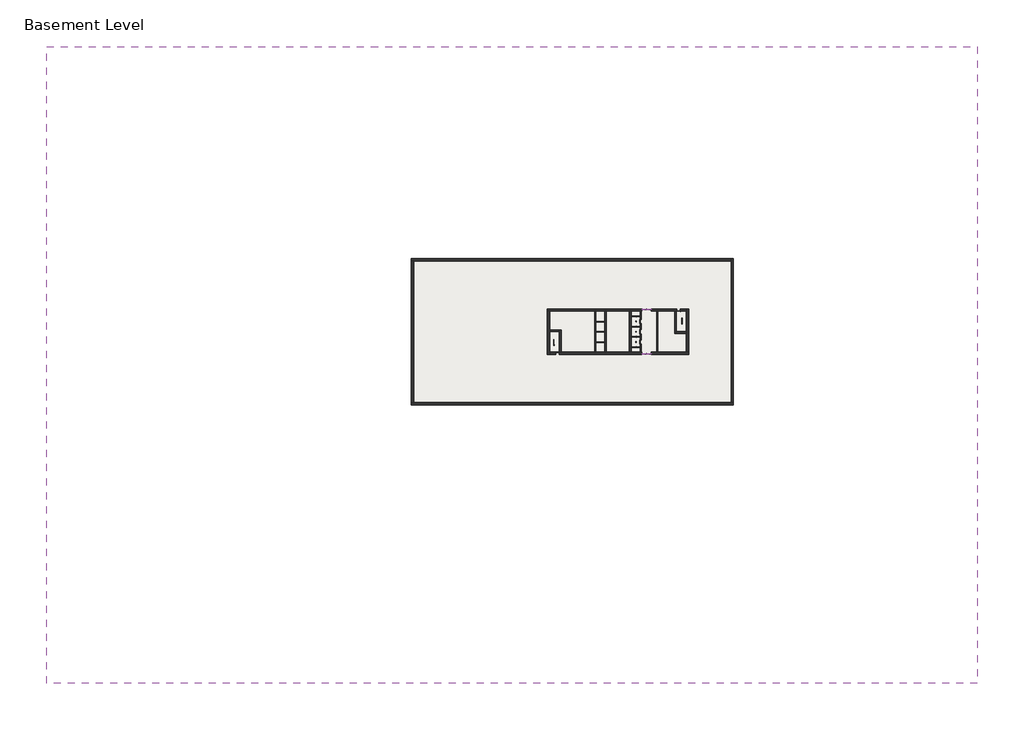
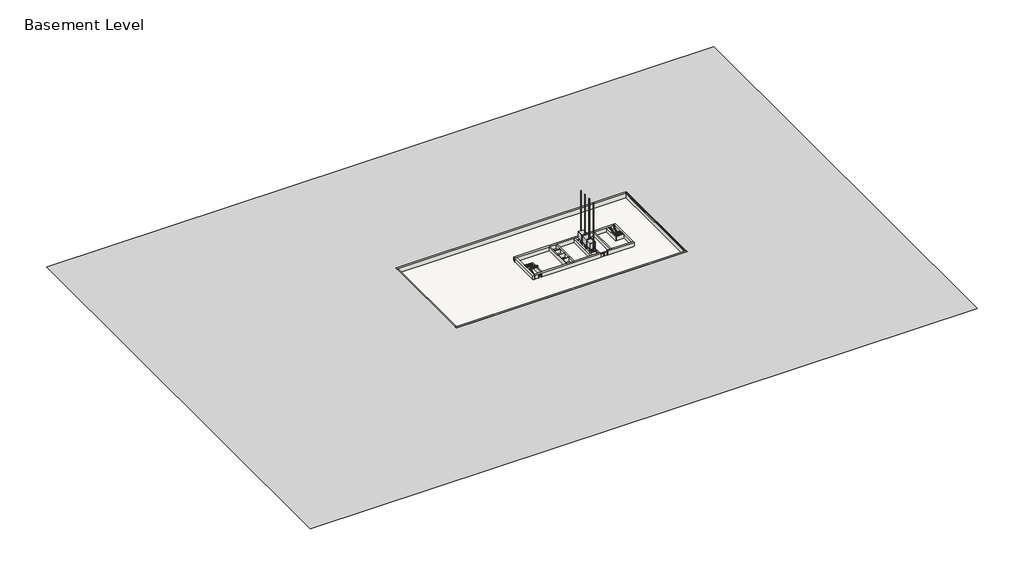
# One storey, incomplete: 24 members, 24 walls, 7 proxies, 6 plates, 4 doors, 4 railings, 3 slabs.
"""IFC4 building model written with IfcOpenShell, lengths in millimetres."""

from ifc_helpers import new_model, si_unit, frame, origin, place, context, project, spatial, polyline, outline, extrude, faceted_brep, triangles, transform, mapped, element, save
from components import proxy_3500_lbs_85ff0118, proxy_7fed659c, curtain_wall_sgl_glass_curtain_wall_sgl_glass_8fcb11fa, curtain_wall_sgl_glass_curtain_wall_sgl_glass_453d5037, door_c3c8cf1c, member_75074519, member_0585f7b2, member_9597caa3, member_b2bde9e6, member_8c690d98, member_3fe7ce38, system_panel_glazed_2148303e, system_panel_glazed_f840508f, system_panel_glazed_a7e6577e, system_panel_glazed_8ef02081, handrail_rectangular_c728cfe4, handrail_rectangular_09896a94, handrail_rectangular_35e503dc, handrail_rectangular_f2ca4272

model = new_model("IFC4")

# Units and contexts
model_context = context("Model", 3, world=origin())
ifc_project = project(units=[si_unit("LENGTHUNIT", "METRE", prefix="MILLI")], contexts=[model_context])

# Site, building, storey
site = spatial("IfcSite", under=ifc_project)
building = spatial("IfcBuilding", under=site)
storey = spatial("IfcBuildingStorey", under=building, Name="Basement Level", Elevation=-3048.0)

# Proxies
placement = place(None, origin())
element("IfcBuildingElementProxy", 1, Name="Building Element Proxy", at=placement, inside=storey, context=model_context, shape_type="Tessellation", body=[
    triangles([(78582.8406006, -100588.3346191, -152.4), (78582.8406006, 65222.8653809, -152.4), (-163596.3026367, 65222.8653809, -152.4), (-163596.3026367, -100588.3346191, -152.4), (-68723.8702881, -28082.2114746, -152.4), (-68723.8702881, 10017.7896881, -152.4), (-2048.1300716, 10017.7896881, -152.4), (15096.1285492, 10017.7896881, -152.4), (15096.1285492, -28082.2114746, -152.4), (-57695.9108643, -28082.2114746, -152.4)], [[4, 5, 3], [5, 4, 10], [5, 6, 3], [3, 6, 2], [4, 1, 10], [9, 1, 2], [1, 9, 10], [7, 8, 2], [2, 8, 9], [7, 2, 6]], closed=False),
])
proxy_3500_lbs_shape = proxy_3500_lbs_85ff0118(model_context)
element("IfcBuildingElementProxy", 2, Name="Elevator-Hydraulic[1] : 3500 lbs", ObjectType="Elevator-Hydraulic[1] : 3500 lbs", at=placement, inside=storey, context=model_context, shape_type="MappedRepresentation", body=[
    mapped(proxy_3500_lbs_shape, transform((-10221.2209663, -11691.7633527, -3048.0), x_axis=(0.0, -1.0, 0.0), y_axis=(1.0, 0.0, 0.0), z_axis=(0.0, 0.0, 1.0))),
])
element("IfcBuildingElementProxy", 3, Name="Elevator-Hydraulic[1] : 3500 lbs", ObjectType="Elevator-Hydraulic[1] : 3500 lbs", at=placement, inside=storey, context=model_context, shape_type="MappedRepresentation", body=[
    mapped(proxy_3500_lbs_shape, transform((-10221.2209663, -9024.7633527, -3048.0), x_axis=(0.0, -1.0, 0.0), y_axis=(1.0, 0.0, 0.0), z_axis=(0.0, 0.0, 1.0))),
])
element("IfcBuildingElementProxy", 4, Name="Elevator-Hydraulic[1] : 3500 lbs", ObjectType="Elevator-Hydraulic[1] : 3500 lbs", at=placement, inside=storey, context=model_context, shape_type="MappedRepresentation", body=[
    mapped(proxy_3500_lbs_shape, transform((-10221.2209663, -6357.7633527, -3048.0), x_axis=(0.0, -1.0, 0.0), y_axis=(1.0, 0.0, 0.0), z_axis=(0.0, 0.0, 1.0))),
])
proxy_shape = proxy_7fed659c(model_context)
element("IfcBuildingElementProxy", 5, Name="Elevator%20Door-Center[1] : 42\" x 84\"", ObjectType="Elevator%20Door-Center[1] : 42\" x 84\"", at=placement, inside=storey, context=model_context, shape_type="MappedRepresentation", body=[
    mapped(proxy_shape, transform((-9030.2427926, -6266.0747049, -3048.0), x_axis=(0.0, 1.0, 0.0), y_axis=(-1.0, 0.0, 0.0), z_axis=(0.0, 0.0, 1.0))),
])
element("IfcBuildingElementProxy", 6, Name="Elevator%20Door-Center[1] : 42\" x 84\"", ObjectType="Elevator%20Door-Center[1] : 42\" x 84\"", at=placement, inside=storey, context=model_context, shape_type="MappedRepresentation", body=[
    mapped(proxy_shape, transform((-9030.2427926, -8933.0747049, -3048.0), x_axis=(0.0, 1.0, 0.0), y_axis=(-1.0, 0.0, 0.0), z_axis=(0.0, 0.0, 1.0))),
])
element("IfcBuildingElementProxy", 7, Name="Elevator%20Door-Center[1] : 42\" x 84\"", ObjectType="Elevator%20Door-Center[1] : 42\" x 84\"", at=placement, inside=storey, context=model_context, shape_type="MappedRepresentation", body=[
    mapped(proxy_shape, transform((-9030.2427926, -11600.0747049, -3048.0), x_axis=(0.0, 1.0, 0.0), y_axis=(-1.0, 0.0, 0.0), z_axis=(0.0, 0.0, 1.0))),
])

# Doors
curtain_wall_sgl_glass_curtain_wall_sgl_glass_shape = curtain_wall_sgl_glass_curtain_wall_sgl_glass_8fcb11fa(model_context)
element("IfcDoor", 8, ObjectType="Curtain Wall Sgl Glass : Curtain Wall Sgl Glass", at=placement, inside=storey, context=model_context, shape_type="MappedRepresentation", body=[
    mapped(curtain_wall_sgl_glass_curtain_wall_sgl_glass_shape, transform((-8089.0820783, -3241.0103492, -3009.9), x_axis=(-1.0, 0.0, 0.0), y_axis=(0.0, -1.0, 0.0), z_axis=(0.0, 0.0, 1.0))),
])
curtain_wall_sgl_glass_curtain_wall_sgl_glass_2_shape = curtain_wall_sgl_glass_curtain_wall_sgl_glass_453d5037(model_context)
element("IfcDoor", 9, ObjectType="Curtain Wall Sgl Glass : Curtain Wall Sgl Glass", at=placement, inside=storey, context=model_context, shape_type="MappedRepresentation", body=[
    mapped(curtain_wall_sgl_glass_curtain_wall_sgl_glass_2_shape, transform((-8089.0820783, -14823.4103492, -3009.9), x_axis=(-1.0, 0.0, 0.0), y_axis=(0.0, -1.0, 0.0), z_axis=(0.0, 0.0, 1.0))),
])
door_shape = door_c3c8cf1c(model_context)
element("IfcDoor", 10, ObjectType="Single-Flush : 36\" x 84\"", at=placement, inside=storey, context=model_context, shape_type="MappedRepresentation", body=[
    mapped(door_shape, transform((-30700.0713641, -14671.0103492, -3048.0), x_axis=(1.0, 0.0, 0.0), y_axis=(0.0, 1.0, 0.0), z_axis=(0.0, 0.0, 1.0))),
])
element("IfcDoor", 11, ObjectType="Single-Flush : 36\" x 84\"", at=placement, inside=storey, context=model_context, shape_type="MappedRepresentation", body=[
    mapped(door_shape, transform((817.7000645, -3393.4103492, -3048.0), x_axis=(-1.0, 0.0, 0.0), y_axis=(0.0, -1.0, 0.0), z_axis=(0.0, 0.0, 1.0))),
])

# Members
member_shape = member_75074519(model_context)
element("IfcMember", 12, ObjectType="Rectangular Mullion : 2.5\" x 5\" rectangular", at=placement, inside=storey, context=model_context, shape_type="MappedRepresentation", body=[
    mapped(member_shape, transform((-6276.1570783, -3241.0103492, -434.975), x_axis=(0.0, 0.0, 1.0), y_axis=(0.0, -1.0, 0.0), z_axis=(1.0, 0.0, 0.0))),
])
element("IfcMember", 13, ObjectType="Rectangular Mullion : 2.5\" x 5\" rectangular", at=placement, inside=storey, context=model_context, shape_type="MappedRepresentation", body=[
    mapped(member_shape, transform((-7495.3570783, -3241.0103492, -434.975), x_axis=(0.0, 0.0, 1.0), y_axis=(0.0, -1.0, 0.0), z_axis=(1.0, 0.0, 0.0))),
])
element("IfcMember", 14, ObjectType="Rectangular Mullion : 2.5\" x 5\" rectangular", at=placement, inside=storey, context=model_context, shape_type="MappedRepresentation", body=[
    mapped(member_shape, transform((-8714.5570783, -3241.0103492, -3073.4), x_axis=(0.0, 0.0, -1.0), y_axis=(0.0, -1.0, 0.0), z_axis=(-1.0, 0.0, 0.0))),
])
element("IfcMember", 15, ObjectType="Rectangular Mullion : 2.5\" x 5\" rectangular", at=placement, inside=storey, context=model_context, shape_type="MappedRepresentation", body=[
    mapped(member_shape, transform((-7495.3570783, -3241.0103492, -3073.4), x_axis=(0.0, 0.0, -1.0), y_axis=(0.0, -1.0, 0.0), z_axis=(-1.0, 0.0, 0.0))),
])
member_2_shape = member_0585f7b2(model_context)
element("IfcMember", 16, ObjectType="Rectangular Mullion : 2.5\" x 5\" rectangular", at=placement, inside=storey, context=model_context, shape_type="MappedRepresentation", body=[
    mapped(member_2_shape, transform((-7495.3570783, -3241.0103492, -635.0), x_axis=(0.0, 0.0, 1.0), y_axis=(0.0, -1.0, 0.0), z_axis=(1.0, 0.0, 0.0))),
])
element("IfcMember", 17, ObjectType="Rectangular Mullion : 2.5\" x 5\" rectangular", at=placement, inside=storey, context=model_context, shape_type="MappedRepresentation", body=[
    mapped(member_2_shape, transform((-6339.6570783, -3241.0103492, -635.0), x_axis=(0.0, 0.0, 1.0), y_axis=(0.0, -1.0, 0.0), z_axis=(1.0, 0.0, 0.0))),
])
member_3_shape = member_9597caa3(model_context)
element("IfcMember", 18, ObjectType="Rectangular Mullion : 2.5\" x 5\" rectangular", at=placement, inside=storey, context=model_context, shape_type="MappedRepresentation", body=[
    mapped(member_3_shape, transform((-7495.3570783, -3241.0103492, -3009.9), x_axis=(1.0, 0.0, 0.0), y_axis=(0.0, -1.0, 0.0), z_axis=(0.0, 0.0, -1.0))),
])
member_4_shape = member_b2bde9e6(model_context)
element("IfcMember", 19, ObjectType="Rectangular Mullion : 2.5\" x 5\" rectangular", at=placement, inside=storey, context=model_context, shape_type="MappedRepresentation", body=[
    mapped(member_4_shape, transform((-6276.1570783, -3241.0103492, -3009.9), x_axis=(1.0, 0.0, 0.0), y_axis=(0.0, -1.0, 0.0), z_axis=(0.0, 0.0, -1.0))),
])
element("IfcMember", 20, ObjectType="Rectangular Mullion : 2.5\" x 5\" rectangular", at=placement, inside=storey, context=model_context, shape_type="MappedRepresentation", body=[
    mapped(member_4_shape, transform((-8714.5570783, -3241.0103492, -635.0), x_axis=(-1.0, 0.0, 0.0), y_axis=(0.0, -1.0, 0.0), z_axis=(0.0, 0.0, 1.0))),
])
element("IfcMember", 21, ObjectType="Rectangular Mullion : 2.5\" x 5\" rectangular", at=placement, inside=storey, context=model_context, shape_type="MappedRepresentation", body=[
    mapped(member_shape, transform((-8714.5570783, -14823.4103492, -3073.4), x_axis=(0.0, 0.0, -1.0), y_axis=(0.0, -1.0, 0.0), z_axis=(-1.0, 0.0, 0.0))),
])
element("IfcMember", 22, ObjectType="Rectangular Mullion : 2.5\" x 5\" rectangular", at=placement, inside=storey, context=model_context, shape_type="MappedRepresentation", body=[
    mapped(member_shape, transform((-7495.3570783, -14823.4103492, -3073.4), x_axis=(0.0, 0.0, -1.0), y_axis=(0.0, -1.0, 0.0), z_axis=(-1.0, 0.0, 0.0))),
])
element("IfcMember", 23, ObjectType="Rectangular Mullion : 2.5\" x 5\" rectangular", at=placement, inside=storey, context=model_context, shape_type="MappedRepresentation", body=[
    mapped(member_2_shape, transform((-7495.3570783, -14823.4103492, -635.0), x_axis=(0.0, 0.0, 1.0), y_axis=(0.0, -1.0, 0.0), z_axis=(1.0, 0.0, 0.0))),
])
element("IfcMember", 24, ObjectType="Rectangular Mullion : 2.5\" x 5\" rectangular", at=placement, inside=storey, context=model_context, shape_type="MappedRepresentation", body=[
    mapped(member_2_shape, transform((-6339.6570783, -14823.4103492, -635.0), x_axis=(0.0, 0.0, 1.0), y_axis=(0.0, -1.0, 0.0), z_axis=(1.0, 0.0, 0.0))),
])
element("IfcMember", 25, ObjectType="Rectangular Mullion : 2.5\" x 5\" rectangular", at=placement, inside=storey, context=model_context, shape_type="MappedRepresentation", body=[
    mapped(member_3_shape, transform((-7495.3570783, -14823.4103492, -3009.9), x_axis=(1.0, 0.0, 0.0), y_axis=(0.0, -1.0, 0.0), z_axis=(0.0, 0.0, -1.0))),
])
element("IfcMember", 26, ObjectType="Rectangular Mullion : 2.5\" x 5\" rectangular", at=placement, inside=storey, context=model_context, shape_type="MappedRepresentation", body=[
    mapped(member_4_shape, transform((-6276.1570783, -14823.4103492, -3009.9), x_axis=(1.0, 0.0, 0.0), y_axis=(0.0, -1.0, 0.0), z_axis=(0.0, 0.0, -1.0))),
])
element("IfcMember", 27, ObjectType="Rectangular Mullion : 2.5\" x 5\" rectangular", at=placement, inside=storey, context=model_context, shape_type="MappedRepresentation", body=[
    mapped(member_4_shape, transform((-8714.5570783, -14823.4103492, -635.0), x_axis=(-1.0, 0.0, 0.0), y_axis=(0.0, -1.0, 0.0), z_axis=(0.0, 0.0, 1.0))),
])
member_5_shape = member_8c690d98(model_context)
element("IfcMember", 28, ObjectType="Rectangular Mullion : 2.5\" x 5\" rectangular", at=placement, inside=storey, context=model_context, shape_type="MappedRepresentation", body=[
    mapped(member_5_shape, transform((-6276.1570783, -3241.0103492, -635.0), x_axis=(1.0, 0.0, 0.0), y_axis=(0.0, -1.0, 0.0), z_axis=(0.0, 0.0, -1.0))),
])
element("IfcMember", 29, ObjectType="Rectangular Mullion : 2.5\" x 5\" rectangular", at=placement, inside=storey, context=model_context, shape_type="MappedRepresentation", body=[
    mapped(member_5_shape, transform((-8714.5570783, -3241.0103492, -498.475), x_axis=(-1.0, 0.0, 0.0), y_axis=(0.0, -1.0, 0.0), z_axis=(0.0, 0.0, 1.0))),
])
member_6_shape = member_3fe7ce38(model_context)
element("IfcMember", 30, ObjectType="Rectangular Mullion : 2.5\" x 5\" rectangular", at=placement, inside=storey, context=model_context, shape_type="MappedRepresentation", body=[
    mapped(member_6_shape, transform((-7495.3570783, -3241.0103492, -603.25), x_axis=(1.0, 0.0, 0.0), y_axis=(0.0, -1.0, 0.0), z_axis=(0.0, 0.0, -1.0))),
])
element("IfcMember", 31, ObjectType="Rectangular Mullion : 2.5\" x 5\" rectangular", at=placement, inside=storey, context=model_context, shape_type="MappedRepresentation", body=[
    mapped(member_5_shape, transform((-6276.1570783, -14823.4103492, -635.0), x_axis=(1.0, 0.0, 0.0), y_axis=(0.0, -1.0, 0.0), z_axis=(0.0, 0.0, -1.0))),
])
element("IfcMember", 32, ObjectType="Rectangular Mullion : 2.5\" x 5\" rectangular", at=placement, inside=storey, context=model_context, shape_type="MappedRepresentation", body=[
    mapped(member_5_shape, transform((-8714.5570783, -14823.4103492, -498.475), x_axis=(-1.0, 0.0, 0.0), y_axis=(0.0, -1.0, 0.0), z_axis=(0.0, 0.0, 1.0))),
])
element("IfcMember", 33, ObjectType="Rectangular Mullion : 2.5\" x 5\" rectangular", at=placement, inside=storey, context=model_context, shape_type="MappedRepresentation", body=[
    mapped(member_6_shape, transform((-7495.3570783, -14823.4103492, -603.25), x_axis=(1.0, 0.0, 0.0), y_axis=(0.0, -1.0, 0.0), z_axis=(0.0, 0.0, -1.0))),
])
element("IfcMember", 34, ObjectType="Rectangular Mullion : 2.5\" x 5\" rectangular", at=placement, inside=storey, context=model_context, shape_type="MappedRepresentation", body=[
    mapped(member_shape, transform((-6276.1570783, -14823.4103492, -434.975), x_axis=(0.0, 0.0, 1.0), y_axis=(0.0, -1.0, 0.0), z_axis=(1.0, 0.0, 0.0))),
])
element("IfcMember", 35, ObjectType="Rectangular Mullion : 2.5\" x 5\" rectangular", at=placement, inside=storey, context=model_context, shape_type="MappedRepresentation", body=[
    mapped(member_shape, transform((-7495.3570783, -14823.4103492, -434.975), x_axis=(0.0, 0.0, 1.0), y_axis=(0.0, -1.0, 0.0), z_axis=(1.0, 0.0, 0.0))),
])

# Plates
system_panel_glazed_shape = system_panel_glazed_2148303e(model_context)
element("IfcPlate", 36, ObjectType="System Panel : Glazed", at=placement, inside=storey, context=model_context, shape_type="MappedRepresentation", body=[
    mapped(system_panel_glazed_shape, transform((-6901.6320783, -3241.0103492, -3009.9), x_axis=(1.0, 0.0, 0.0), y_axis=(0.0, 1.0, 0.0), z_axis=(0.0, 0.0, 1.0))),
])
system_panel_glazed_2_shape = system_panel_glazed_f840508f(model_context)
element("IfcPlate", 37, ObjectType="System Panel : Glazed", at=placement, inside=storey, context=model_context, shape_type="MappedRepresentation", body=[
    mapped(system_panel_glazed_2_shape, transform((-6901.6320783, -14823.4103492, -3009.9), x_axis=(1.0, 0.0, 0.0), y_axis=(0.0, 1.0, 0.0), z_axis=(0.0, 0.0, 1.0))),
])
system_panel_glazed_3_shape = system_panel_glazed_a7e6577e(model_context)
element("IfcPlate", 38, ObjectType="System Panel : Glazed", at=placement, inside=storey, context=model_context, shape_type="MappedRepresentation", body=[
    mapped(system_panel_glazed_3_shape, transform((-8089.0820783, -3241.0103492, -603.25), x_axis=(1.0, 0.0, 0.0), y_axis=(0.0, 1.0, 0.0), z_axis=(0.0, 0.0, 1.0))),
])
element("IfcPlate", 39, ObjectType="System Panel : Glazed", at=placement, inside=storey, context=model_context, shape_type="MappedRepresentation", body=[
    mapped(system_panel_glazed_3_shape, transform((-6901.6320783, -3241.0103492, -603.25), x_axis=(1.0, 0.0, 0.0), y_axis=(0.0, 1.0, 0.0), z_axis=(0.0, 0.0, 1.0))),
])
system_panel_glazed_4_shape = system_panel_glazed_8ef02081(model_context)
element("IfcPlate", 40, ObjectType="System Panel : Glazed", at=placement, inside=storey, context=model_context, shape_type="MappedRepresentation", body=[
    mapped(system_panel_glazed_4_shape, transform((-8089.0820783, -14823.4103492, -603.25), x_axis=(1.0, 0.0, 0.0), y_axis=(0.0, 1.0, 0.0), z_axis=(0.0, 0.0, 1.0))),
])
element("IfcPlate", 41, ObjectType="System Panel : Glazed", at=placement, inside=storey, context=model_context, shape_type="MappedRepresentation", body=[
    mapped(system_panel_glazed_4_shape, transform((-6901.6320783, -14823.4103492, -603.25), x_axis=(1.0, 0.0, 0.0), y_axis=(0.0, 1.0, 0.0), z_axis=(0.0, 0.0, 1.0))),
])

# Railings
handrail_rectangular_shape = handrail_rectangular_c728cfe4(model_context)
element("IfcRailing", 42, ObjectType="Handrail - Rectangular", at=placement, inside=storey, context=model_context, shape_type="MappedRepresentation", body=[
    mapped(handrail_rectangular_shape, transform((0.0, 0.0, 0.0), x_axis=(1.0, 0.0, 0.0), y_axis=(0.0, 1.0, 0.0), z_axis=(0.0, 0.0, 1.0))),
])
handrail_rectangular_2_shape = handrail_rectangular_09896a94(model_context)
element("IfcRailing", 43, ObjectType="Handrail - Rectangular", at=placement, inside=storey, context=model_context, shape_type="MappedRepresentation", body=[
    mapped(handrail_rectangular_2_shape, transform((0.0, 0.0, 0.0), x_axis=(1.0, 0.0, 0.0), y_axis=(0.0, 1.0, 0.0), z_axis=(0.0, 0.0, 1.0))),
])
handrail_rectangular_3_shape = handrail_rectangular_35e503dc(model_context)
element("IfcRailing", 44, ObjectType="Handrail - Rectangular", at=placement, inside=storey, context=model_context, shape_type="MappedRepresentation", body=[
    mapped(handrail_rectangular_3_shape, transform((0.0, 0.0, 0.0), x_axis=(1.0, 0.0, 0.0), y_axis=(0.0, 1.0, 0.0), z_axis=(0.0, 0.0, 1.0))),
])
handrail_rectangular_4_shape = handrail_rectangular_f2ca4272(model_context)
element("IfcRailing", 45, ObjectType="Handrail - Rectangular", at=placement, inside=storey, context=model_context, shape_type="MappedRepresentation", body=[
    mapped(handrail_rectangular_4_shape, transform((0.0, 0.0, 0.0), x_axis=(1.0, 0.0, 0.0), y_axis=(0.0, 1.0, 0.0), z_axis=(0.0, 0.0, 1.0))),
])

# Slabs
element("IfcSlab", 46, ObjectType="6\" Foundation Slab", at=placement, inside=storey, context=model_context, shape_type="SweptSolid", body=[
    extrude(outline(polyline([(-68114.2713641, -27472.6103492), (-68114.2713641, 9408.1896508), (14486.5286359, 9408.1896508), (14486.5286359, -27472.6103492), (-68114.2713641, -27472.6103492)])), frame((0.0, 0.0, -3200.4), z_axis=(0.0, 0.0, 1.0), x_axis=(1.0, 0.0, 0.0)), (0.0, 0.0, 1.0), 152.4),
])
element("IfcSlab", 47, ObjectType="Generic - 4\"", at=placement, inside=storey, context=model_context, shape_type="SweptSolid", body=[
    extrude(outline(polyline([(-68114.2713641, -27472.6103492), (-68114.2713641, 9408.1896508), (14486.5286359, 9408.1896508), (14486.5286359, -27472.6103492), (-68114.2713641, -27472.6103492)])), frame((0.0, 0.0, -3149.6), z_axis=(0.0, 0.0, 1.0), x_axis=(1.0, 0.0, 0.0)), (0.0, 0.0, 1.0), 101.6),
])
element("IfcSlab", 48, ObjectType="Pad 1", at=placement, inside=storey, context=model_context, shape_type="SweptSolid", body=[
    extrude(outline(polyline([(-68723.8713641, -28082.2103492), (-68723.8713641, 10017.7896508), (15096.1286359, 10017.7896508), (15096.1286359, -28082.2103492), (-68723.8713641, -28082.2103492)])), frame((0.0, 0.0, -2286.0), z_axis=(0.0, 0.0, 1.0), x_axis=(1.0, 0.0, 0.0)), (0.0, 0.0, 1.0), 304.8),
])

# Walls
element("IfcWall", 49, ObjectType="Core-shaft 10\" Concrete", at=placement, inside=storey, context=model_context, shape_type="SweptSolid", body=[
    extrude(outline(polyline([(-20725.1285069, -3698.2103492), (-20725.1285069, -14366.2103492), (-20979.1285069, -14366.2103492), (-20979.1285069, -3698.2103492), (-20725.1285069, -3698.2103492)])), frame((0.0, 0.0, -3048.0), z_axis=(0.0, 0.0, 1.0), x_axis=(1.0, 0.0, 0.0)), (0.0, 0.0, 1.0), 2613.025),
])
element("IfcWall", 50, ObjectType="Core-shaft 10\" Concrete", at=placement, inside=storey, context=model_context, shape_type="SweptSolid", body=[
    extrude(outline(polyline([(-3698.2103492, -3048.0), (-5825.4603492, -3048.0), (-5825.4603492, -889.0), (-6904.9603492, -889.0), (-6904.9603492, -3048.0), (-8492.4603492, -3048.0), (-8492.4603492, -889.0), (-9571.9603492, -889.0), (-9571.9603492, -3048.0), (-11159.4603492, -3048.0), (-11159.4603492, -889.0), (-12238.9603492, -889.0), (-12238.9603492, -3048.0), (-14366.2103492, -3048.0), (-14366.2103492, -434.975), (-3698.2103492, -434.975), (-3698.2103492, -3048.0)])), frame((-9157.2427926, 0.0, 0.0), z_axis=(1.0, 0.0, 0.0), x_axis=(0.0, 1.0, 0.0)), (0.0, 0.0, 1.0), 254.0),
])
element("IfcWall", 51, ObjectType="Core-shaft 10\" Concrete", at=placement, inside=storey, context=model_context, shape_type="SweptSolid", body=[
    extrude(outline(polyline([(-4636.0427926, -3698.2103492), (-4636.0427926, -14366.2103492), (-4890.0427926, -14366.2103492), (-4890.0427926, -3698.2103492), (-4636.0427926, -3698.2103492)])), frame((0.0, 0.0, -3048.0), z_axis=(0.0, 0.0, 1.0), x_axis=(1.0, 0.0, 0.0)), (0.0, 0.0, 1.0), 2613.025),
])
element("IfcWall", 52, ObjectType="Core-shaft 18\" Concrete", at=placement, inside=storey, context=model_context, shape_type="SweptSolid", body=[
    extrude(outline(polyline([(-18385.1284437, -14366.2103492), (-18385.1284437, -3698.2103492), (-17927.9284437, -3698.2103492), (-17927.9284437, -14366.2103492), (-18385.1284437, -14366.2103492)])), frame((0.0, 0.0, -3048.0), z_axis=(0.0, 0.0, 1.0), x_axis=(1.0, 0.0, 0.0)), (0.0, 0.0, 1.0), 2613.025),
])
element("IfcWall", 53, ObjectType="Core-shaft 18\" Concrete", at=placement, inside=storey, context=model_context, shape_type="Brep", body=[
    faceted_brep([(-29709.4713641, -14366.2103492, -3048.0), (-29709.4713641, -8575.0103492, -3048.0), (-29709.4713641, -8575.0103492, -434.975), (-29709.4713641, -14366.2103492, -434.975), (-30166.6713641, -14366.2103492, -3048.0), (-30166.6713641, -14366.2103492, -434.975), (-30166.6713641, -9032.2103492, -434.975), (-30166.6713641, -8575.0103492, -434.975), (-30166.6713641, -8575.0103492, -3048.0), (-30166.6713641, -9032.2103492, -3048.0)], [[[0, 1, 2, 3]], [[4, 5, 6, 7, 8, 9]], [[1, 0, 4, 9, 8]], [[0, 3, 5, 4]], [[2, 1, 8, 7]], [[3, 2, 7, 6, 5]]]),
])
element("IfcWall", 54, ObjectType="Core-shaft 18\" Concrete", at=placement, inside=storey, context=model_context, shape_type="SweptSolid", body=[
    extrude(outline(polyline([(-32750.2142212, -8575.0103492), (-30166.6713641, -8575.0103492), (-30166.6713641, -9032.2103492), (-32750.2142212, -9032.2103492), (-32750.2142212, -8575.0103492)])), frame((0.0, 0.0, -3048.0), z_axis=(0.0, 0.0, 1.0), x_axis=(1.0, 0.0, 0.0)), (0.0, 0.0, 1.0), 2613.025),
])
element("IfcWall", 55, ObjectType="Core-shaft 18\" Concrete", at=placement, inside=storey, context=model_context, shape_type="SweptSolid", body=[
    extrude(outline(polyline([(-11954.4428559, -14366.2103492), (-11954.4428559, -3698.2103492), (-11497.2428559, -3698.2103492), (-11497.2428559, -14366.2103492), (-11954.4428559, -14366.2103492)])), frame((0.0, 0.0, -3048.0), z_axis=(0.0, 0.0, 1.0), x_axis=(1.0, 0.0, 0.0)), (0.0, 0.0, 1.0), 2613.025),
])
element("IfcWall", 56, ObjectType="Core-shaft 18\" Concrete", at=placement, inside=storey, context=model_context, shape_type="Brep", body=[
    faceted_brep([(-172.8999355, -3698.2103492, -3048.0), (-172.8999355, -9489.4103492, -3048.0), (-172.8999355, -9489.4103492, -434.975), (-172.8999355, -3698.2103492, -434.975), (284.3000645, -3698.2103492, -3048.0), (284.3000645, -3698.2103492, -434.975), (284.3000645, -9032.2103492, -434.975), (284.3000645, -9489.4103492, -434.975), (284.3000645, -9489.4103492, -3048.0), (284.3000645, -9032.2103492, -3048.0)], [[[0, 1, 2, 3]], [[4, 5, 6, 7, 8, 9]], [[1, 0, 4, 9, 8]], [[0, 3, 5, 4]], [[2, 1, 8, 7]], [[3, 2, 7, 6, 5]]]),
])
element("IfcWall", 57, ObjectType="Core-shaft 18\" Concrete", at=placement, inside=storey, context=model_context, shape_type="SweptSolid", body=[
    extrude(outline(polyline([(2867.8429217, -9489.4103492), (284.3000645, -9489.4103492), (284.3000645, -9032.2103492), (2867.8429217, -9032.2103492), (2867.8429217, -9489.4103492)])), frame((0.0, 0.0, -3048.0), z_axis=(0.0, 0.0, 1.0), x_axis=(1.0, 0.0, 0.0)), (0.0, 0.0, 1.0), 2613.025),
])
element("IfcWall", 58, ObjectType="Core-shaft 24\" Concrete", at=placement, inside=storey, context=model_context, shape_type="Brep", body=[
    faceted_brep([(15096.1286359, -27472.6103492, -3048.0), (14486.5286359, -27472.6103492, -3048.0), (-68114.2713641, -27472.6103492, -3048.0), (-68723.8713641, -27472.6103492, -3048.0), (-68723.8713641, -27472.6103492, -434.975), (-68723.8713641, -27472.6103492, -127.0), (15096.1286359, -27472.6103492, -127.0), (15096.1286359, -27472.6103492, -434.975), (15096.1286359, -28082.2103492, -3048.0), (15096.1286359, -28082.2103492, -127.0), (-68723.8713641, -28082.2103492, -127.0), (-68723.8713641, -28082.2103492, -3048.0)], [[[0, 1, 2, 3, 4, 5, 6, 7]], [[8, 9, 10, 11]], [[3, 2, 1, 0, 8, 11]], [[6, 5, 10, 9]], [[0, 7, 6, 9, 8]], [[5, 4, 3, 11, 10]]]),
])
element("IfcWall", 59, ObjectType="Core-shaft 24\" Concrete", at=placement, inside=storey, context=model_context, shape_type="Brep", body=[
    faceted_brep([(14486.5286359, 10017.7896508, -3048.0), (14486.5286359, 9408.1896508, -3048.0), (14486.5286359, -27472.6103492, -3048.0), (14486.5286359, -27472.6103492, -434.975), (14486.5286359, 10017.7896508, -434.975), (15096.1286359, 10017.7896508, -3048.0), (15096.1286359, 10017.7896508, -434.975), (15096.1286359, 9953.8127769, -434.975), (15096.1286359, -27472.6103492, -434.975), (15096.1286359, -27472.6103492, -3048.0), (14575.0788114, 10017.7896508, -434.975), (14830.5804088, 10017.7896508, -434.975), (15043.3054088, 10017.7896508, -434.975), (15043.3054088, -27472.6103492, -434.975), (14830.5804088, -27472.6103492, -434.975), (15043.3054088, 9960.2986536, -434.975), (14830.5804088, 9986.4179993, -434.975), (14830.5804088, -15034.4255886, -434.975)], [[[0, 1, 2, 3, 4]], [[5, 6, 7, 8, 9]], [[2, 1, 0, 5, 9]], [[0, 4, 10, 11, 12, 6, 5]], [[3, 2, 9, 8, 13, 14]], [[13, 8, 7, 15]], [[7, 6, 12, 15]], [[14, 13, 15, 16, 17]], [[11, 10, 16]], [[12, 11, 16, 15]], [[4, 3, 14, 17, 16, 10]]]),
])
element("IfcWall", 60, ObjectType="Core-shaft 24\" Concrete", at=placement, inside=storey, context=model_context, shape_type="Brep", body=[
    faceted_brep([(-68723.8713641, 9408.1896508, -3048.0), (-68114.2713641, 9408.1896508, -3048.0), (14486.5286359, 9408.1896508, -3048.0), (14486.5286359, 9408.1896508, -127.0), (-68723.8713641, 9408.1896508, -127.0), (-68723.8713641, 9408.1896508, -434.975), (-68723.8713641, 10017.7896508, -3048.0), (-68723.8713641, 10017.7896508, -127.0), (14486.5286359, 10017.7896508, -127.0), (14486.5286359, 10017.7896508, -434.975), (14486.5286359, 10017.7896508, -3048.0)], [[[0, 1, 2, 3, 4, 5]], [[6, 7, 8, 9, 10]], [[2, 1, 0, 6, 10]], [[4, 3, 8, 7]], [[0, 5, 4, 7, 6]], [[3, 2, 10, 9, 8]]]),
])
element("IfcWall", 61, ObjectType="Core-shaft 24\" Concrete", at=placement, inside=storey, context=model_context, shape_type="SweptSolid", body=[
    extrude(outline(polyline([(-3048.0, -68114.2713641), (-434.975, -68114.2713641), (-434.975, -68660.7599961), (-434.975, -68723.8713641), (-3048.0, -68723.8713641), (-3048.0, -68114.2713641)])), frame((0.0, -27472.6103492, 0.0), z_axis=(0.0, 1.0, 0.0), x_axis=(0.0, 0.0, 1.0)), (0.0, 0.0, 1.0), 36880.8),
])
element("IfcWall", 62, ObjectType="Core-shaft 24\" Concrete", at=placement, inside=storey, context=model_context, shape_type="Brep", body=[
    faceted_brep([(-8714.5570783, -14366.2103492, -3048.0), (-8903.2427926, -14366.2103492, -3048.0), (-9157.2427926, -14366.2103492, -3048.0), (-11497.2428559, -14366.2103492, -3048.0), (-11954.4428559, -14366.2103492, -3048.0), (-17927.9284437, -14366.2103492, -3048.0), (-18385.1284437, -14366.2103492, -3048.0), (-20725.1285069, -14366.2103492, -3048.0), (-20979.1285069, -14366.2103492, -3048.0), (-29709.4713641, -14366.2103492, -3048.0), (-30166.6713641, -14366.2103492, -3048.0), (-30242.8713641, -14366.2103492, -3048.0), (-30242.8713641, -14366.2103492, -914.4), (-31157.2713641, -14366.2103492, -914.4), (-31157.2713641, -14366.2103492, -3048.0), (-32750.2142212, -14366.2103492, -3048.0), (-32750.2142212, -14366.2103492, -434.975), (-30166.6713641, -14366.2103492, -434.975), (-29709.4713641, -14366.2103492, -434.975), (-20979.1285069, -14366.2103492, -434.975), (-20725.1285069, -14366.2103492, -434.975), (-18385.1284437, -14366.2103492, -434.975), (-17927.9284437, -14366.2103492, -434.975), (-11954.4428559, -14366.2103492, -434.975), (-11497.2428559, -14366.2103492, -434.975), (-9157.2427926, -14366.2103492, -434.975), (-8903.2427926, -14366.2103492, -434.975), (-8714.5570783, -14366.2103492, -434.975), (-30242.8713641, -14975.8103492, -914.4), (-30242.8713641, -14975.8103492, -3048.0), (-8714.5570783, -14975.8103492, -3048.0), (-8714.5570783, -14975.8103492, -434.975), (-32750.2142212, -14975.8103492, -434.975), (-32750.2142212, -14975.8103492, -3048.0), (-31157.2713641, -14975.8103492, -3048.0), (-31157.2713641, -14975.8103492, -914.4)], [[[0, 1, 2, 3, 4, 5, 6, 7, 8, 9, 10, 11, 12, 13, 14, 15, 16, 17, 18, 19, 20, 21, 22, 23, 24, 25, 26, 27]], [[28, 29, 30, 31, 32, 33, 34, 35]], [[34, 33, 15, 14]], [[30, 29, 11, 10, 9, 8, 7, 6, 5, 4, 3, 2, 1, 0]], [[12, 11, 29, 28]], [[13, 12, 28, 35]], [[14, 13, 35, 34]], [[0, 27, 31, 30]], [[16, 15, 33, 32]], [[16, 32, 31, 27, 26, 25, 24, 23, 22, 21, 20, 19, 18, 17]]]),
    faceted_brep([(3477.4429217, -14366.2103492, -434.975), (3477.4429217, -14366.2103492, -3048.0), (2867.8429217, -14366.2103492, -3048.0), (-4636.0427926, -14366.2103492, -3048.0), (-4890.0427926, -14366.2103492, -3048.0), (-6276.1570783, -14366.2103492, -3048.0), (-6276.1570783, -14366.2103492, -434.975), (-4890.0427926, -14366.2103492, -434.975), (-4636.0427926, -14366.2103492, -434.975), (2867.8429217, -14366.2103492, -434.975), (3477.4429217, -14975.8103492, -3048.0), (3477.4429217, -14975.8103492, -434.975), (-6276.1570783, -14975.8103492, -434.975), (-6276.1570783, -14975.8103492, -3048.0)], [[[0, 1, 2, 3, 4, 5, 6, 7, 8, 9]], [[10, 11, 12, 13]], [[1, 10, 13, 5, 4, 3, 2]], [[6, 5, 13, 12]], [[1, 0, 11, 10]], [[11, 0, 9, 8, 7, 6, 12]]]),
])
element("IfcWall", 63, ObjectType="Core-shaft 24\" Concrete", at=placement, inside=storey, context=model_context, shape_type="Brep", body=[
    faceted_brep([(2867.8429217, -3088.6103492, -3048.0), (2867.8429217, -3698.2103492, -3048.0), (2867.8429217, -9032.2103492, -3048.0), (2867.8429217, -9489.4103492, -3048.0), (2867.8429217, -14366.2103492, -3048.0), (2867.8429217, -14366.2103492, -434.975), (2867.8429217, -9489.4103492, -434.975), (2867.8429217, -9032.2103492, -434.975), (2867.8429217, -3698.2103492, -434.975), (2867.8429217, -3088.6103492, -434.975), (3477.4429217, -3088.6103492, -3048.0), (3477.4429217, -3088.6103492, -434.975), (3477.4429217, -14366.2103492, -434.975), (3477.4429217, -14366.2103492, -3048.0)], [[[0, 1, 2, 3, 4, 5, 6, 7, 8, 9]], [[10, 11, 12, 13]], [[4, 3, 2, 1, 0, 10, 13]], [[5, 4, 13, 12]], [[0, 9, 11, 10]], [[9, 8, 7, 6, 5, 12, 11]]]),
])
element("IfcWall", 64, ObjectType="Core-shaft 24\" Concrete", at=placement, inside=storey, context=model_context, shape_type="Brep", body=[
    faceted_brep([(-6276.1570783, -3698.2103492, -3048.0), (-4890.0427926, -3698.2103492, -3048.0), (-4636.0427926, -3698.2103492, -3048.0), (-172.8999355, -3698.2103492, -3048.0), (284.3000645, -3698.2103492, -3048.0), (360.5000645, -3698.2103492, -3048.0), (360.5000645, -3698.2103492, -914.4), (1274.9000645, -3698.2103492, -914.4), (1274.9000645, -3698.2103492, -3048.0), (2867.8429217, -3698.2103492, -3048.0), (2867.8429217, -3698.2103492, -434.975), (284.3000645, -3698.2103492, -434.975), (-172.8999355, -3698.2103492, -434.975), (-4636.0427926, -3698.2103492, -434.975), (-4890.0427926, -3698.2103492, -434.975), (-6276.1570783, -3698.2103492, -434.975), (360.5000645, -3088.6103492, -914.4), (360.5000645, -3088.6103492, -3048.0), (-6276.1570783, -3088.6103492, -3048.0), (-6276.1570783, -3088.6103492, -434.975), (2867.8429217, -3088.6103492, -434.975), (2867.8429217, -3088.6103492, -3048.0), (1274.9000645, -3088.6103492, -3048.0), (1274.9000645, -3088.6103492, -914.4)], [[[0, 1, 2, 3, 4, 5, 6, 7, 8, 9, 10, 11, 12, 13, 14, 15]], [[16, 17, 18, 19, 20, 21, 22, 23]], [[22, 21, 9, 8]], [[18, 17, 5, 4, 3, 2, 1, 0]], [[0, 15, 19, 18]], [[6, 5, 17, 16]], [[7, 6, 16, 23]], [[8, 7, 23, 22]], [[10, 9, 21, 20]], [[10, 20, 19, 15, 14, 13, 12, 11]]]),
    faceted_brep([(-33359.8142212, -3698.2103492, -434.975), (-33359.8142212, -3698.2103492, -3048.0), (-32750.2142212, -3698.2103492, -3048.0), (-20979.1285069, -3698.2103492, -3048.0), (-20725.1285069, -3698.2103492, -3048.0), (-18385.1284437, -3698.2103492, -3048.0), (-17927.9284437, -3698.2103492, -3048.0), (-11954.4428559, -3698.2103492, -3048.0), (-11497.2428559, -3698.2103492, -3048.0), (-9157.2427926, -3698.2103492, -3048.0), (-8903.2427926, -3698.2103492, -3048.0), (-8714.5570783, -3698.2103492, -3048.0), (-8714.5570783, -3698.2103492, -434.975), (-8903.2427926, -3698.2103492, -434.975), (-9157.2427926, -3698.2103492, -434.975), (-11497.2428559, -3698.2103492, -434.975), (-11954.4428559, -3698.2103492, -434.975), (-17927.9284437, -3698.2103492, -434.975), (-18385.1284437, -3698.2103492, -434.975), (-20725.1285069, -3698.2103492, -434.975), (-20979.1285069, -3698.2103492, -434.975), (-32750.2142212, -3698.2103492, -434.975), (-33359.8142212, -3088.6103492, -3048.0), (-33359.8142212, -3088.6103492, -434.975), (-8714.5570783, -3088.6103492, -434.975), (-8714.5570783, -3088.6103492, -3048.0)], [[[0, 1, 2, 3, 4, 5, 6, 7, 8, 9, 10, 11, 12, 13, 14, 15, 16, 17, 18, 19, 20, 21]], [[22, 23, 24, 25]], [[1, 22, 25, 11, 10, 9, 8, 7, 6, 5, 4, 3, 2]], [[12, 11, 25, 24]], [[1, 0, 23, 22]], [[23, 0, 21, 20, 19, 18, 17, 16, 15, 14, 13, 12, 24]]]),
])
element("IfcWall", 65, ObjectType="Core-shaft 24\" Concrete", at=placement, inside=storey, context=model_context, shape_type="Brep", body=[
    faceted_brep([(-32750.2142212, -14975.8103492, -3048.0), (-32750.2142212, -14366.2103492, -3048.0), (-32750.2142212, -9032.2103492, -3048.0), (-32750.2142212, -8575.0103492, -3048.0), (-32750.2142212, -3698.2103492, -3048.0), (-32750.2142212, -3698.2103492, -434.975), (-32750.2142212, -8575.0103492, -434.975), (-32750.2142212, -9032.2103492, -434.975), (-32750.2142212, -14366.2103492, -434.975), (-32750.2142212, -14975.8103492, -434.975), (-33359.8142212, -14975.8103492, -3048.0), (-33359.8142212, -14975.8103492, -434.975), (-33359.8142212, -3698.2103492, -434.975), (-33359.8142212, -3698.2103492, -3048.0)], [[[0, 1, 2, 3, 4, 5, 6, 7, 8, 9]], [[10, 11, 12, 13]], [[4, 3, 2, 1, 0, 10, 13]], [[0, 9, 11, 10]], [[5, 4, 13, 12]], [[9, 8, 7, 6, 5, 12, 11]]]),
])
element("IfcWall", 66, ObjectType="Generic - 5\"", at=placement, inside=storey, context=model_context, shape_type="SweptSolid", body=[
    extrude(outline(polyline([(-18385.1284437, -11826.2103492), (-20725.1285069, -11826.2103492), (-20725.1285069, -11699.2103492), (-18385.1284437, -11699.2103492), (-18385.1284437, -11826.2103492)])), frame((0.0, 0.0, -3048.0), z_axis=(0.0, 0.0, 1.0), x_axis=(1.0, 0.0, 0.0)), (0.0, 0.0, 1.0), 2613.025),
])
element("IfcWall", 67, ObjectType="Generic - 5\"", at=placement, inside=storey, context=model_context, shape_type="SweptSolid", body=[
    extrude(outline(polyline([(-18385.1284437, -9159.2103492), (-20725.1285069, -9159.2103492), (-20725.1285069, -9032.2103492), (-18385.1284437, -9032.2103492), (-18385.1284437, -9159.2103492)])), frame((0.0, 0.0, -3048.0), z_axis=(0.0, 0.0, 1.0), x_axis=(1.0, 0.0, 0.0)), (0.0, 0.0, 1.0), 2613.025),
])
element("IfcWall", 68, ObjectType="Generic - 5\"", at=placement, inside=storey, context=model_context, shape_type="SweptSolid", body=[
    extrude(outline(polyline([(-18385.1284437, -6492.2103492), (-20725.1285069, -6492.2103492), (-20725.1285069, -6365.2103492), (-18385.1284437, -6365.2103492), (-18385.1284437, -6492.2103492)])), frame((0.0, 0.0, -3048.0), z_axis=(0.0, 0.0, 1.0), x_axis=(1.0, 0.0, 0.0)), (0.0, 0.0, 1.0), 2613.025),
])
element("IfcWall", 69, ObjectType="Generic - 5\"", at=placement, inside=storey, context=model_context, shape_type="SweptSolid", body=[
    extrude(outline(polyline([(-11497.2428559, -10302.2103492), (-9157.2427926, -10302.2103492), (-9157.2427926, -10429.2103492), (-11497.2428559, -10429.2103492), (-11497.2428559, -10302.2103492)])), frame((0.0, 0.0, -3048.0), z_axis=(0.0, 0.0, 1.0), x_axis=(1.0, 0.0, 0.0)), (0.0, 0.0, 1.0), 2613.025),
])
element("IfcWall", 70, ObjectType="Generic - 5\"", at=placement, inside=storey, context=model_context, shape_type="SweptSolid", body=[
    extrude(outline(polyline([(-11497.2428559, -7635.2103492), (-9157.2427926, -7635.2103492), (-9157.2427926, -7762.2103492), (-11497.2428559, -7762.2103492), (-11497.2428559, -7635.2103492)])), frame((0.0, 0.0, -3048.0), z_axis=(0.0, 0.0, 1.0), x_axis=(1.0, 0.0, 0.0)), (0.0, 0.0, 1.0), 2613.025),
])
element("IfcWall", 71, ObjectType="Generic - 5\"", at=placement, inside=storey, context=model_context, shape_type="SweptSolid", body=[
    extrude(outline(polyline([(-11497.2428559, -4968.2103492), (-9157.2427926, -4968.2103492), (-9157.2427926, -5095.2103492), (-11497.2428559, -5095.2103492), (-11497.2428559, -4968.2103492)])), frame((0.0, 0.0, -3048.0), z_axis=(0.0, 0.0, 1.0), x_axis=(1.0, 0.0, 0.0)), (0.0, 0.0, 1.0), 2613.025),
])
element("IfcWall", 72, ObjectType="Generic - 5\"", at=placement, inside=storey, context=model_context, shape_type="SweptSolid", body=[
    extrude(outline(polyline([(-11497.2428559, -12969.2103492), (-9157.2427926, -12969.2103492), (-9157.2427926, -13096.2103492), (-11497.2428559, -13096.2103492), (-11497.2428559, -12969.2103492)])), frame((0.0, 0.0, -3048.0), z_axis=(0.0, 0.0, 1.0), x_axis=(1.0, 0.0, 0.0)), (0.0, 0.0, 1.0), 2613.025),
])

save(model, "model.ifc")
